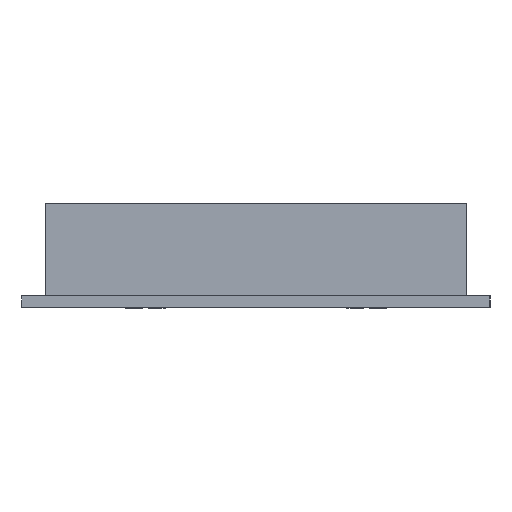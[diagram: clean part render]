
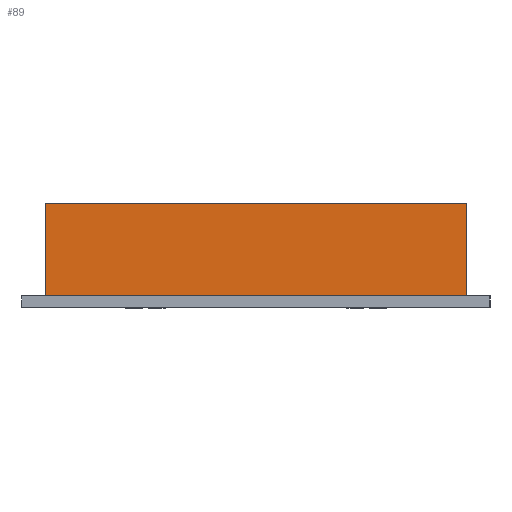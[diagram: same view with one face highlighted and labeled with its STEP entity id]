
A CAD part, left-side view. The second image highlights one B-rep face of the part: STEP entity #89.
In plain terms, the highlighted planar face has unit normal (-1, 0, 0).
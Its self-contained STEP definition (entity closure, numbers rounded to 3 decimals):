
#89=ADVANCED_FACE('',(#270),#2420,.T.);
#270=FACE_OUTER_BOUND('',#456,.T.);
#456=EDGE_LOOP('',(#706,#707,#708,#709));
#706=ORIENTED_EDGE('',*,*,#1592,.T.);
#707=ORIENTED_EDGE('',*,*,#1576,.T.);
#708=ORIENTED_EDGE('',*,*,#1577,.F.);
#709=ORIENTED_EDGE('',*,*,#1578,.F.);
#1576=EDGE_CURVE('',#2030,#2021,#2761,.T.);
#1577=EDGE_CURVE('',#2022,#2021,#2762,.T.);
#1578=EDGE_CURVE('',#2029,#2022,#2763,.T.);
#1592=EDGE_CURVE('',#2029,#2030,#2777,.T.);
#2021=VERTEX_POINT('',#4150);
#2022=VERTEX_POINT('',#4151);
#2029=VERTEX_POINT('',#4158);
#2030=VERTEX_POINT('',#4159);
#2420=PLANE('',#3043);
#2761=B_SPLINE_CURVE_WITH_KNOTS('',1,(#4218,#4219),.UNSPECIFIED.,.F.,.F.,
(2,2),(0.,25.),.UNSPECIFIED.);
#2762=B_SPLINE_CURVE_WITH_KNOTS('',1,(#4220,#4221),.UNSPECIFIED.,.F.,.F.,
(2,2),(-3248.564,-3134.564),.UNSPECIFIED.);
#2763=B_SPLINE_CURVE_WITH_KNOTS('',1,(#4222,#4223),.UNSPECIFIED.,.F.,.F.,
(2,2),(0.,25.),.UNSPECIFIED.);
#2777=B_SPLINE_CURVE_WITH_KNOTS('',1,(#4250,#4251),.UNSPECIFIED.,.F.,.F.,
(2,2),(-3248.564,-3134.564),.UNSPECIFIED.);
#3043=AXIS2_PLACEMENT_3D('',#3364,#3185,$);
#3185=DIRECTION('',(-1.,0.,0.));
#3364=CARTESIAN_POINT('',(6.5,-6.5,3.));
#4150=CARTESIAN_POINT('',(6.5,-120.5,28.));
#4151=CARTESIAN_POINT('',(6.5,-6.5,28.));
#4158=CARTESIAN_POINT('',(6.5,-6.5,3.));
#4159=CARTESIAN_POINT('',(6.5,-120.5,3.));
#4218=CARTESIAN_POINT('',(6.5,-120.5,3.));
#4219=CARTESIAN_POINT('',(6.5,-120.5,28.));
#4220=CARTESIAN_POINT('',(6.5,-6.5,28.));
#4221=CARTESIAN_POINT('',(6.5,-120.5,28.));
#4222=CARTESIAN_POINT('',(6.5,-6.5,3.));
#4223=CARTESIAN_POINT('',(6.5,-6.5,28.));
#4250=CARTESIAN_POINT('',(6.5,-6.5,3.));
#4251=CARTESIAN_POINT('',(6.5,-120.5,3.));
